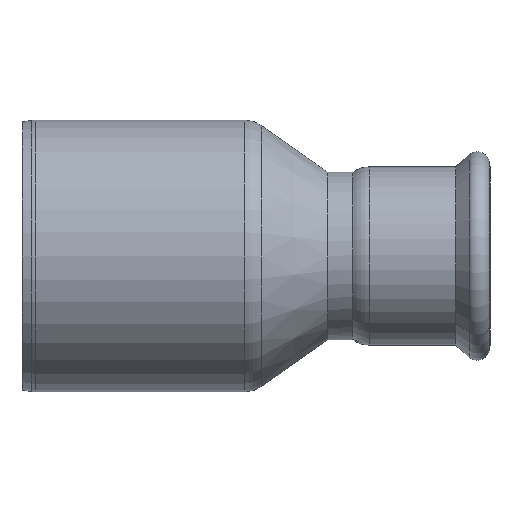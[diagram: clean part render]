
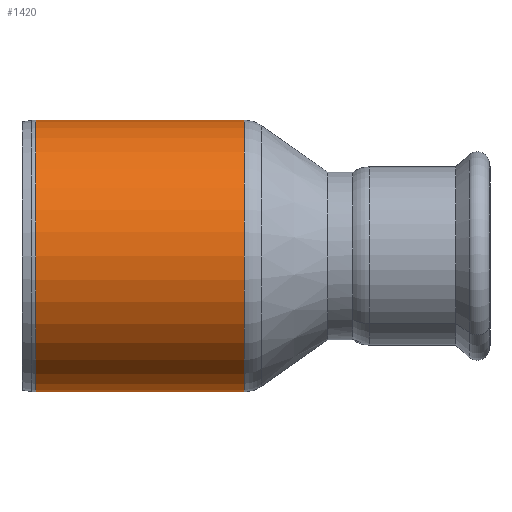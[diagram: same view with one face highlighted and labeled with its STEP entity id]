
A CAD part, front view. The second image highlights one B-rep face of the part: STEP entity #1420.
In plain terms, the highlighted cylindrical face has radius 54 mm (diameter 108 mm), a partial arc.
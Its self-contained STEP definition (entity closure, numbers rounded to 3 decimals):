
#1010=CARTESIAN_POINT('',(-68.271,0.,0.));
#1020=DIRECTION('',(1.,0.,0.));
#1030=DIRECTION('',(0.,0.,-1.));
#1040=AXIS2_PLACEMENT_3D('',#1010,#1020,#1030);
#1050=CYLINDRICAL_SURFACE('',#1040,54.);
#1060=CARTESIAN_POINT('',(-68.271,0.,-54.));
#1070=DIRECTION('',(1.,0.,0.));
#1080=VECTOR('',#1070,1.);
#1090=LINE('',#1060,#1080);
#1100=CARTESIAN_POINT('',(-101.863,0.,-54.));
#1110=VERTEX_POINT('',#1100);
#1120=CARTESIAN_POINT('',(-18.986,0.,-54.));
#1130=VERTEX_POINT('',#1120);
#1140=EDGE_CURVE('',#1110,#1130,#1090,.T.);
#1150=ORIENTED_EDGE('',*,*,#1140,.T.);
#1160=CARTESIAN_POINT('',(-101.863,0.,0.));
#1170=DIRECTION('',(1.,0.,0.));
#1180=DIRECTION('',(0.,0.,-1.));
#1190=AXIS2_PLACEMENT_3D('',#1160,#1170,#1180);
#1200=CIRCLE('',#1190,54.);
#1210=CARTESIAN_POINT('',(-101.863,0.,54.));
#1220=VERTEX_POINT('',#1210);
#1230=EDGE_CURVE('',#1220,#1110,#1200,.T.);
#1240=ORIENTED_EDGE('',*,*,#1230,.T.);
#1250=CARTESIAN_POINT('',(-68.271,0.,54.));
#1260=DIRECTION('',(1.,0.,0.));
#1270=VECTOR('',#1260,1.);
#1280=LINE('',#1250,#1270);
#1290=CARTESIAN_POINT('',(-18.986,0.,54.));
#1300=VERTEX_POINT('',#1290);
#1310=EDGE_CURVE('',#1220,#1300,#1280,.T.);
#1320=ORIENTED_EDGE('',*,*,#1310,.F.);
#1330=CARTESIAN_POINT('',(-18.986,0.,0.));
#1340=DIRECTION('',(1.,0.,0.));
#1350=DIRECTION('',(0.,0.,-1.));
#1360=AXIS2_PLACEMENT_3D('',#1330,#1340,#1350);
#1370=CIRCLE('',#1360,54.);
#1380=EDGE_CURVE('',#1300,#1130,#1370,.T.);
#1390=ORIENTED_EDGE('',*,*,#1380,.F.);
#1400=EDGE_LOOP('',(#1390,#1320,#1240,#1150));
#1410=FACE_OUTER_BOUND('',#1400,.T.);
#1420=ADVANCED_FACE('',(#1410),#1050,.T.);
